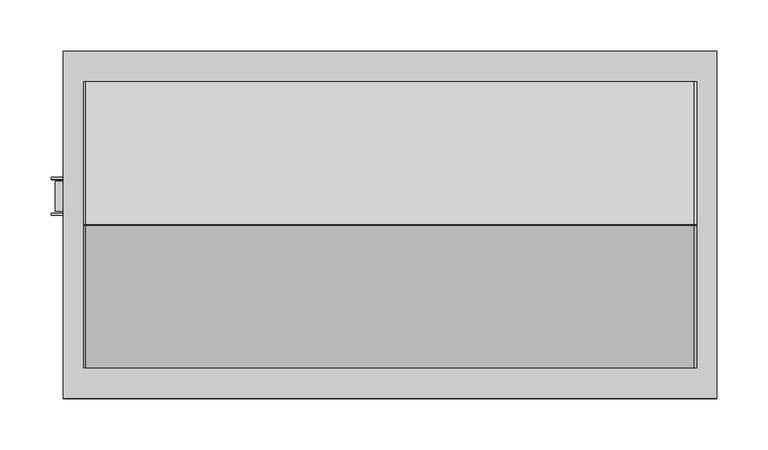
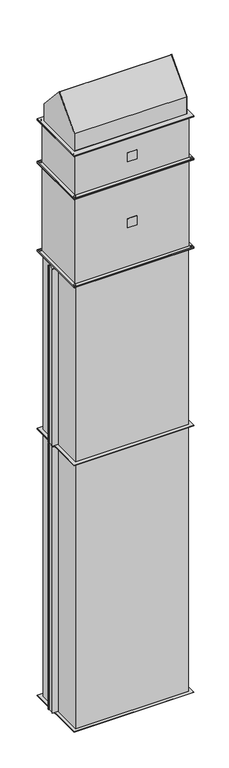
"""IFC4 building model written with IfcOpenShell, lengths in millimetres: proxy geometry, KORF_Завеса_БезНагрева_PWZ_C : PWZ-C 60-30 H."""

from ifc_helpers import new_model, si_unit, point, frame, frame_2d, origin, origin_with_axes, place, context, project, spatial, polyline, circle_curve, trimmed, segment, composite_curve, outline, extrude, source, transform, mapped, element, save


def mechanical_equipment_105a97da(model_context):
    return source(origin(), model_context, "Body", "SweptSolid", [
        extrude(outline(polyline([(25.0, -155.0), (-25.0, -155.0), (-25.0, -153.0), (25.0, -153.0), (25.0, -155.0)])), frame((0.0, 0.0, 3094.0), z_axis=(0.0, 0.0, 1.0), x_axis=(1.0, 0.0, 0.0)), (0.0, 0.0, 1.0), 50.0),
        extrude(outline(polyline([(-320.0, -170.0), (-320.0, 170.0), (320.0, 170.0), (320.0, -170.0), (-320.0, -170.0)]), holes=[polyline([(-300.0, -150.0), (300.0, -150.0), (300.0, 150.0), (-300.0, 150.0), (-300.0, -150.0)]), composite_curve([segment(trimmed(circle_curve(frame_2d((310.0, -160.0)), 4.5), [point((314.5, -160.0))], [point((305.5, -160.0))], True, "CARTESIAN"), True, "CONTINUOUS"), segment(trimmed(circle_curve(frame_2d((310.0, -160.0)), 4.5), [point((305.5, -160.0))], [point((314.5, -160.0))], True, "CARTESIAN"), True, "CONTINUOUS")], self_intersect=False), composite_curve([segment(trimmed(circle_curve(frame_2d((-310.0, -160.0)), 4.5), [point((-305.5, -160.0))], [point((-314.5, -160.0))], True, "CARTESIAN"), True, "CONTINUOUS"), segment(trimmed(circle_curve(frame_2d((-310.0, -160.0)), 4.5), [point((-314.5, -160.0))], [point((-305.5, -160.0))], True, "CARTESIAN"), True, "CONTINUOUS")], self_intersect=False), composite_curve([segment(trimmed(circle_curve(frame_2d((-310.0, 160.0)), 4.5), [point((-305.5, 160.0))], [point((-314.5, 160.0))], True, "CARTESIAN"), True, "CONTINUOUS"), segment(trimmed(circle_curve(frame_2d((-310.0, 160.0)), 4.5), [point((-314.5, 160.0))], [point((-305.5, 160.0))], True, "CARTESIAN"), True, "CONTINUOUS")], self_intersect=False), composite_curve([segment(trimmed(circle_curve(frame_2d((310.0, 160.0)), 4.5), [point((314.5, 160.0))], [point((305.5, 160.0))], True, "CARTESIAN"), True, "CONTINUOUS"), segment(trimmed(circle_curve(frame_2d((310.0, 160.0)), 4.5), [point((305.5, 160.0))], [point((314.5, 160.0))], True, "CARTESIAN"), True, "CONTINUOUS")], self_intersect=False)]), frame((0.0, 0.0, 2998.0), z_axis=(0.0, 0.0, 1.0), x_axis=(1.0, 0.0, 0.0)), (0.0, 0.0, 1.0), 5.0),
        extrude(outline(polyline([(-320.0, -170.0), (-320.0, 170.0), (320.0, 170.0), (320.0, -170.0), (-320.0, -170.0)]), holes=[polyline([(-300.0, -150.0), (300.0, -150.0), (300.0, 150.0), (-300.0, 150.0), (-300.0, -150.0)]), composite_curve([segment(trimmed(circle_curve(frame_2d((310.0, -160.0)), 4.5), [point((314.5, -160.0))], [point((305.5, -160.0))], True, "CARTESIAN"), True, "CONTINUOUS"), segment(trimmed(circle_curve(frame_2d((310.0, -160.0)), 4.5), [point((305.5, -160.0))], [point((314.5, -160.0))], True, "CARTESIAN"), True, "CONTINUOUS")], self_intersect=False), composite_curve([segment(trimmed(circle_curve(frame_2d((-310.0, -160.0)), 4.5), [point((-305.5, -160.0))], [point((-314.5, -160.0))], True, "CARTESIAN"), True, "CONTINUOUS"), segment(trimmed(circle_curve(frame_2d((-310.0, -160.0)), 4.5), [point((-314.5, -160.0))], [point((-305.5, -160.0))], True, "CARTESIAN"), True, "CONTINUOUS")], self_intersect=False), composite_curve([segment(trimmed(circle_curve(frame_2d((-310.0, 160.0)), 4.5), [point((-305.5, 160.0))], [point((-314.5, 160.0))], True, "CARTESIAN"), True, "CONTINUOUS"), segment(trimmed(circle_curve(frame_2d((-310.0, 160.0)), 4.5), [point((-314.5, 160.0))], [point((-305.5, 160.0))], True, "CARTESIAN"), True, "CONTINUOUS")], self_intersect=False), composite_curve([segment(trimmed(circle_curve(frame_2d((310.0, 160.0)), 4.5), [point((314.5, 160.0))], [point((305.5, 160.0))], True, "CARTESIAN"), True, "CONTINUOUS"), segment(trimmed(circle_curve(frame_2d((310.0, 160.0)), 4.5), [point((305.5, 160.0))], [point((314.5, 160.0))], True, "CARTESIAN"), True, "CONTINUOUS")], self_intersect=False)]), frame((0.0, 0.0, 3235.0), z_axis=(0.0, 0.0, 1.0), x_axis=(1.0, 0.0, 0.0)), (0.0, 0.0, 1.0), 5.0),
        extrude(outline(polyline([(-303.0, -153.0), (-303.0, 153.0), (303.0, 153.0), (303.0, -153.0), (-303.0, -153.0)])), frame((0.0, 0.0, 3003.0), z_axis=(0.0, 0.0, 1.0), x_axis=(1.0, 0.0, 0.0)), (0.0, 0.0, 1.0), 232.0),
        extrude(outline(polyline([(25.0, -155.0), (-25.0, -155.0), (-25.0, -153.0), (25.0, -153.0), (25.0, -155.0)])), frame((0.0, 0.0, 2724.0), z_axis=(0.0, 0.0, 1.0), x_axis=(1.0, 0.0, 0.0)), (0.0, 0.0, 1.0), 50.0),
        extrude(outline(polyline([(320.0, -170.0), (-320.0, -170.0), (-320.0, 170.0), (320.0, 170.0), (320.0, -170.0)]), holes=[polyline([(300.0, -150.0), (300.0, 150.0), (-300.0, 150.0), (-300.0, -150.0), (300.0, -150.0)]), composite_curve([segment(trimmed(circle_curve(frame_2d((-310.0, -160.0)), 4.5), [point((-305.5, -160.0))], [point((-314.5, -160.0))], True, "CARTESIAN"), True, "CONTINUOUS"), segment(trimmed(circle_curve(frame_2d((-310.0, -160.0)), 4.5), [point((-314.5, -160.0))], [point((-305.5, -160.0))], True, "CARTESIAN"), True, "CONTINUOUS")], self_intersect=False), composite_curve([segment(trimmed(circle_curve(frame_2d((310.0, -160.0)), 4.5), [point((314.5, -160.0))], [point((305.5, -160.0))], True, "CARTESIAN"), True, "CONTINUOUS"), segment(trimmed(circle_curve(frame_2d((310.0, -160.0)), 4.5), [point((305.5, -160.0))], [point((314.5, -160.0))], True, "CARTESIAN"), True, "CONTINUOUS")], self_intersect=False), composite_curve([segment(trimmed(circle_curve(frame_2d((310.0, 160.0)), 4.5), [point((314.5, 160.0))], [point((305.5, 160.0))], True, "CARTESIAN"), True, "CONTINUOUS"), segment(trimmed(circle_curve(frame_2d((310.0, 160.0)), 4.5), [point((305.5, 160.0))], [point((314.5, 160.0))], True, "CARTESIAN"), True, "CONTINUOUS")], self_intersect=False), composite_curve([segment(trimmed(circle_curve(frame_2d((-310.0, 160.0)), 4.5), [point((-305.5, 160.0))], [point((-314.5, 160.0))], True, "CARTESIAN"), True, "CONTINUOUS"), segment(trimmed(circle_curve(frame_2d((-310.0, 160.0)), 4.5), [point((-314.5, 160.0))], [point((-305.5, 160.0))], True, "CARTESIAN"), True, "CONTINUOUS")], self_intersect=False)]), frame((0.0, 0.0, 2993.0), z_axis=(0.0, 0.0, 1.0), x_axis=(1.0, 0.0, 0.0)), (0.0, 0.0, 1.0), 5.0),
        extrude(outline(polyline([(320.0, -170.0), (-320.0, -170.0), (-320.0, 170.0), (320.0, 170.0), (320.0, -170.0)]), holes=[polyline([(300.0, -150.0), (300.0, 150.0), (-300.0, 150.0), (-300.0, -150.0), (300.0, -150.0)]), composite_curve([segment(trimmed(circle_curve(frame_2d((-310.0, -160.0)), 4.5), [point((-305.5, -160.0))], [point((-314.5, -160.0))], True, "CARTESIAN"), True, "CONTINUOUS"), segment(trimmed(circle_curve(frame_2d((-310.0, -160.0)), 4.5), [point((-314.5, -160.0))], [point((-305.5, -160.0))], True, "CARTESIAN"), True, "CONTINUOUS")], self_intersect=False), composite_curve([segment(trimmed(circle_curve(frame_2d((310.0, -160.0)), 4.5), [point((314.5, -160.0))], [point((305.5, -160.0))], True, "CARTESIAN"), True, "CONTINUOUS"), segment(trimmed(circle_curve(frame_2d((310.0, -160.0)), 4.5), [point((305.5, -160.0))], [point((314.5, -160.0))], True, "CARTESIAN"), True, "CONTINUOUS")], self_intersect=False), composite_curve([segment(trimmed(circle_curve(frame_2d((310.0, 160.0)), 4.5), [point((314.5, 160.0))], [point((305.5, 160.0))], True, "CARTESIAN"), True, "CONTINUOUS"), segment(trimmed(circle_curve(frame_2d((310.0, 160.0)), 4.5), [point((305.5, 160.0))], [point((314.5, 160.0))], True, "CARTESIAN"), True, "CONTINUOUS")], self_intersect=False), composite_curve([segment(trimmed(circle_curve(frame_2d((-310.0, 160.0)), 4.5), [point((-305.5, 160.0))], [point((-314.5, 160.0))], True, "CARTESIAN"), True, "CONTINUOUS"), segment(trimmed(circle_curve(frame_2d((-310.0, 160.0)), 4.5), [point((-314.5, 160.0))], [point((-305.5, 160.0))], True, "CARTESIAN"), True, "CONTINUOUS")], self_intersect=False)]), frame((0.0, 0.0, 2500.0), z_axis=(0.0, 0.0, 1.0), x_axis=(1.0, 0.0, 0.0)), (0.0, 0.0, 1.0), 5.0),
        extrude(outline(polyline([(303.0, -153.0), (-303.0, -153.0), (-303.0, 153.0), (303.0, 153.0), (303.0, -153.0)])), frame((0.0, 0.0, 2505.0), z_axis=(0.0, 0.0, 1.0), x_axis=(1.0, 0.0, 0.0)), (0.0, 0.0, 1.0), 488.0),
        extrude(outline(polyline([(300.0, 150.0), (300.0, -150.0), (-300.0, -150.0), (-300.0, 150.0), (300.0, 150.0)])), frame((0.0, 0.0, 1500.0), z_axis=(0.0, 0.0, 1.0), x_axis=(1.0, 0.0, 0.0)), (0.0, 0.0, 1.0), 1000.0),
        extrude(outline(polyline([(-328.0, 42.5), (-300.0, 42.5), (-300.0, 13.5), (-328.0, 13.5), (-328.0, 42.5)])), frame((0.0, 0.0, 1502.0), z_axis=(0.0, 0.0, 1.0), x_axis=(1.0, 0.0, 0.0)), (0.0, 0.0, 1.0), 996.0),
        extrude(outline(polyline([(-332.0, 46.5), (-300.0, 46.5), (-300.0, 44.5), (-332.0, 44.5), (-332.0, 46.5)])), frame((0.0, 0.0, 1502.0), z_axis=(0.0, 0.0, 1.0), x_axis=(1.0, 0.0, 0.0)), (0.0, 0.0, 1.0), 996.0),
        extrude(outline(polyline([(-332.0, 9.5), (-332.0, 11.5), (-300.0, 11.5), (-300.0, 9.5), (-332.0, 9.5)])), frame((0.0, 0.0, 1502.0), z_axis=(0.0, 0.0, 1.0), x_axis=(1.0, 0.0, 0.0)), (0.0, 0.0, 1.0), 996.0),
        extrude(outline(polyline([(320.0, 170.0), (320.0, -170.0), (-320.0, -170.0), (-320.0, 170.0), (320.0, 170.0)]), holes=[polyline([(300.0, 150.0), (-300.0, 150.0), (-300.0, -150.0), (300.0, -150.0), (300.0, 150.0)])]), frame((0.0, 0.0, 2498.0), z_axis=(0.0, 0.0, 1.0), x_axis=(1.0, 0.0, 0.0)), (0.0, 0.0, 1.0), 2.0),
        extrude(outline(polyline([(320.0, 170.0), (320.0, -170.0), (-320.0, -170.0), (-320.0, 170.0), (320.0, 170.0)]), holes=[polyline([(300.0, 150.0), (-300.0, 150.0), (-300.0, -150.0), (300.0, -150.0), (300.0, 150.0)])]), frame((0.0, 0.0, 1500.0), z_axis=(0.0, 0.0, 1.0), x_axis=(1.0, 0.0, 0.0)), (0.0, 0.0, 1.0), 2.0),
        extrude(outline(polyline([(300.0, 150.0), (300.0, -150.0), (-300.0, -150.0), (-300.0, 150.0), (300.0, 150.0)])), origin_with_axes(), (0.0, 0.0, 1.0), 1500.0),
        extrude(outline(polyline([(-328.0, 42.5), (-300.0, 42.5), (-300.0, 13.5), (-328.0, 13.5), (-328.0, 42.5)])), frame((0.0, 0.0, 2.0), z_axis=(0.0, 0.0, 1.0), x_axis=(1.0, 0.0, 0.0)), (0.0, 0.0, 1.0), 1496.0),
        extrude(outline(polyline([(-332.0, 46.5), (-300.0, 46.5), (-300.0, 44.5), (-332.0, 44.5), (-332.0, 46.5)])), frame((0.0, 0.0, 2.0), z_axis=(0.0, 0.0, 1.0), x_axis=(1.0, 0.0, 0.0)), (0.0, 0.0, 1.0), 1496.0),
        extrude(outline(polyline([(-332.0, 9.5), (-332.0, 11.5), (-300.0, 11.5), (-300.0, 9.5), (-332.0, 9.5)])), frame((0.0, 0.0, 2.0), z_axis=(0.0, 0.0, 1.0), x_axis=(1.0, 0.0, 0.0)), (0.0, 0.0, 1.0), 1496.0),
        extrude(outline(polyline([(320.0, 170.0), (320.0, -170.0), (-320.0, -170.0), (-320.0, 170.0), (320.0, 170.0)]), holes=[polyline([(300.0, 150.0), (-300.0, 150.0), (-300.0, -150.0), (300.0, -150.0), (300.0, 150.0)])]), frame((0.0, 0.0, 1498.0), z_axis=(0.0, 0.0, 1.0), x_axis=(1.0, 0.0, 0.0)), (0.0, 0.0, 1.0), 2.0),
        extrude(outline(polyline([(320.0, 170.0), (320.0, -170.0), (-320.0, -170.0), (-320.0, 170.0), (320.0, 170.0)]), holes=[polyline([(300.0, 150.0), (-300.0, 150.0), (-300.0, -150.0), (300.0, -150.0), (300.0, 150.0)])]), origin_with_axes(), (0.0, 0.0, 1.0), 2.0),
        extrude(outline(composite_curve([segment(polyline([(140.0, 3337.1428571), (140.0, 3242.0), (-140.0, 3242.0), (-140.0, 3337.1428571), (-0.6395979, 3489.3786763)]), True, "CONTINUOUS"), segment(trimmed(circle_curve(frame_2d((0.0, 3488.7202668)), 0.9179263), [point((-0.6395979, 3489.3786763))], [point((0.6395979, 3489.3786763))], False, "CARTESIAN"), True, "CONTINUOUS"), segment(polyline([(0.6395979, 3489.3786763), (140.0, 3337.1428571)]), True, "CONTINUOUS")], self_intersect=False)), frame((298.0, 0.0, 0.0), z_axis=(1.0, 0.0, 0.0), x_axis=(0.0, 1.0, 0.0)), (0.0, 0.0, 1.0), 2.0),
        extrude(outline(composite_curve([segment(polyline([(140.0, 3337.1428571), (140.0, 3242.0), (-140.0, 3242.0), (-140.0, 3337.1428571), (-0.6395979, 3489.3786763)]), True, "CONTINUOUS"), segment(trimmed(circle_curve(frame_2d((0.0, 3488.7202668)), 0.9179263), [point((-0.6395979, 3489.3786763))], [point((0.6395979, 3489.3786763))], False, "CARTESIAN"), True, "CONTINUOUS"), segment(polyline([(0.6395979, 3489.3786763), (140.0, 3337.1428571)]), True, "CONTINUOUS")], self_intersect=False)), frame((-298.0, 0.0, 0.0), z_axis=(1.0, 0.0, 0.0), x_axis=(0.0, 1.0, 0.0)), (0.0, 0.0, 1.0), 596.0),
        extrude(outline(composite_curve([segment(polyline([(140.0, 3337.1428571), (140.0, 3242.0), (-140.0, 3242.0), (-140.0, 3337.1428571), (-0.6395979, 3489.3786763)]), True, "CONTINUOUS"), segment(trimmed(circle_curve(frame_2d((0.0, 3488.7202668)), 0.9179263), [point((-0.6395979, 3489.3786763))], [point((0.6395979, 3489.3786763))], False, "CARTESIAN"), True, "CONTINUOUS"), segment(polyline([(0.6395979, 3489.3786763), (140.0, 3337.1428571)]), True, "CONTINUOUS")], self_intersect=False)), frame((-300.0, 0.0, 0.0), z_axis=(1.0, 0.0, 0.0), x_axis=(0.0, 1.0, 0.0)), (0.0, 0.0, 1.0), 2.0),
        extrude(outline(polyline([(320.0, 170.0), (320.0, -170.0), (-320.0, -170.0), (-320.0, 170.0), (320.0, 170.0)]), holes=[polyline([(-300.0, 140.0), (-300.0, -140.0), (300.0, -140.0), (300.0, 140.0), (-300.0, 140.0)])]), frame((0.0, 0.0, 3240.0), z_axis=(0.0, 0.0, 1.0), x_axis=(1.0, 0.0, 0.0)), (0.0, 0.0, 1.0), 2.0),
    ])


if __name__ == "__main__":
    model = new_model("IFC4")
    model_context = context("Model", 3, world=origin())
    ifc_project = project(units=[si_unit("LENGTHUNIT", "METRE", prefix="MILLI")], contexts=[model_context])
    site = spatial("IfcSite", under=ifc_project)
    building = spatial("IfcBuilding", under=site)
    placement = place(None, origin())
    mechanical_equipment_shape = mechanical_equipment_105a97da(model_context)
    element("IfcBuildingElementProxy", 1, Name="KORF_Завеса_БезНагрева_PWZ_C : PWZ-C 60-30 H", ObjectType="KORF_Завеса_БезНагрева_PWZ_C : PWZ-C 60-30 H", at=placement, inside=building, context=model_context, shape_type="MappedRepresentation", body=[
        mapped(mechanical_equipment_shape, transform((0.0, 0.0, 0.0), x_axis=(1.0, 0.0, 0.0), y_axis=(0.0, 1.0, 0.0), z_axis=(0.0, 0.0, 1.0))),
    ])
    save(model, "model.ifc")
